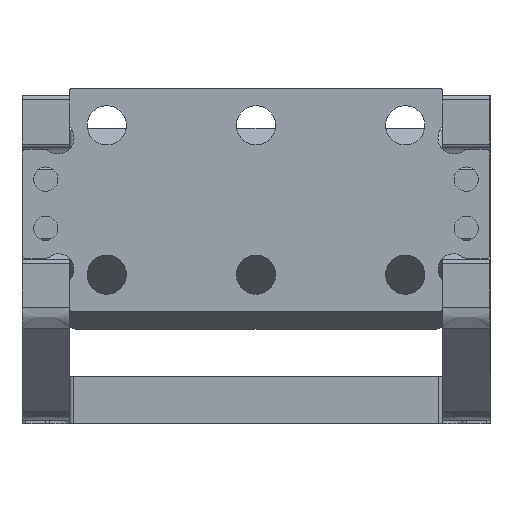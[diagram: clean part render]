
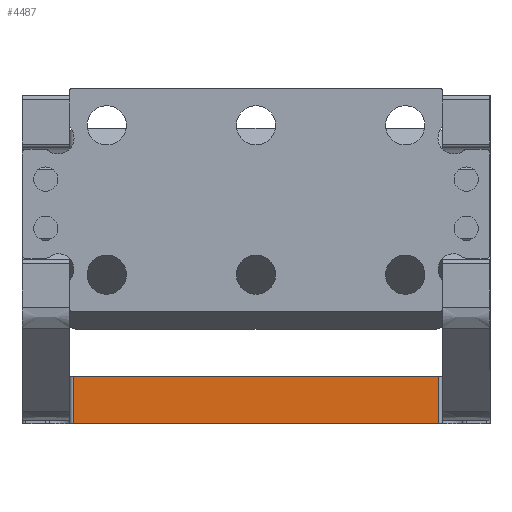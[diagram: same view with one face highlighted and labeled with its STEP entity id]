
A CAD part, left-side view. The second image highlights one B-rep face of the part: STEP entity #4487.
In plain terms, the highlighted planar face has unit normal (-1, 0, 0).
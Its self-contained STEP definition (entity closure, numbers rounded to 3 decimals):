
#328=PLANE('',#4864);
#505=FACE_OUTER_BOUND('',#796,.T.);
#796=EDGE_LOOP('',(#3714,#3715,#3716,#3717));
#1031=LINE('',#7329,#1326);
#1057=LINE('',#7581,#1352);
#1062=LINE('',#7622,#1357);
#1075=LINE('',#7787,#1370);
#1326=VECTOR('',#5529,10.);
#1352=VECTOR('',#5633,10.);
#1357=VECTOR('',#5670,10.);
#1370=VECTOR('',#5735,10.);
#1939=VERTEX_POINT('',#7325);
#1941=VERTEX_POINT('',#7328);
#1988=VERTEX_POINT('',#7579);
#2004=VERTEX_POINT('',#7620);
#2491=EDGE_CURVE('',#1941,#1939,#1031,.T.);
#2560=EDGE_CURVE('',#1988,#1939,#1057,.T.);
#2579=EDGE_CURVE('',#2004,#1988,#1062,.T.);
#2615=EDGE_CURVE('',#2004,#1941,#1075,.T.);
#3714=ORIENTED_EDGE('',*,*,#2579,.F.);
#3715=ORIENTED_EDGE('',*,*,#2615,.T.);
#3716=ORIENTED_EDGE('',*,*,#2491,.T.);
#3717=ORIENTED_EDGE('',*,*,#2560,.F.);
#4487=ADVANCED_FACE('',(#505),#328,.T.);
#4864=AXIS2_PLACEMENT_3D('',#7792,#5740,#5741);
#5529=DIRECTION('',(0.,0.,1.));
#5633=DIRECTION('',(0.,-1.,0.));
#5670=DIRECTION('',(0.,0.,1.));
#5735=DIRECTION('',(0.,-1.,0.));
#5740=DIRECTION('center_axis',(-1.,0.,0.));
#5741=DIRECTION('ref_axis',(0.,0.,-1.));
#7325=CARTESIAN_POINT('',(15.,-49.5,6.35));
#7328=CARTESIAN_POINT('',(15.,-49.5,0.));
#7329=CARTESIAN_POINT('',(15.,-49.5,4.763));
#7579=CARTESIAN_POINT('',(15.,-0.5,6.35));
#7581=CARTESIAN_POINT('',(15.,0.,6.35));
#7620=CARTESIAN_POINT('',(15.,-0.5,0.));
#7622=CARTESIAN_POINT('',(15.,-0.5,4.763));
#7787=CARTESIAN_POINT('',(15.,0.,0.));
#7792=CARTESIAN_POINT('Origin',(15.,0.,6.35));
